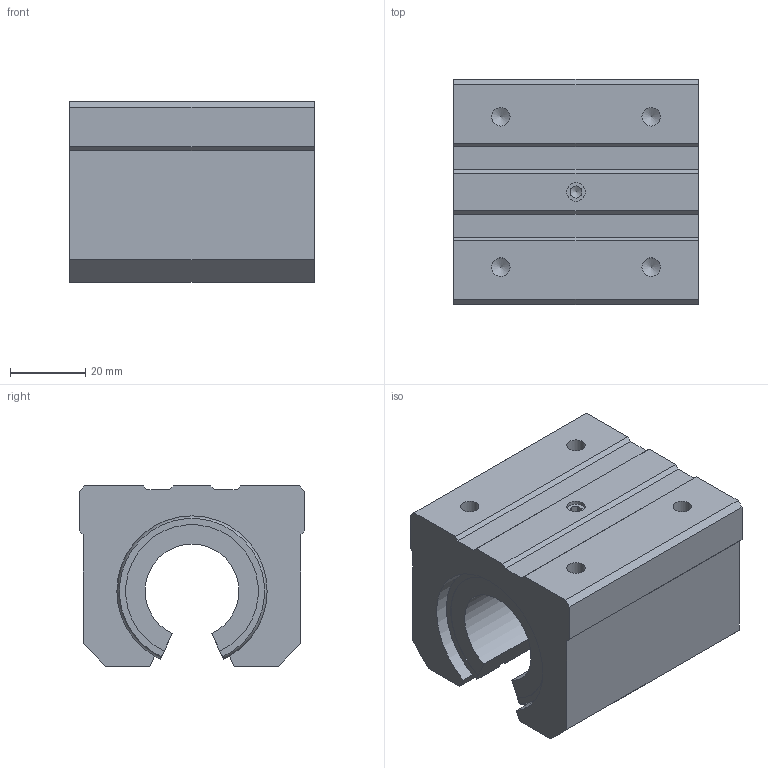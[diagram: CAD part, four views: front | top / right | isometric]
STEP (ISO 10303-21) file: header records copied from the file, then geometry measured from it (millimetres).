
FILE_DESCRIPTION((''),'2;1');
FILE_NAME('D:\製品 (図面)\カタログ用3D\GHA25H.stp','2010-06-07T16:10:37',('Tsuchiya'),(''),'Autodesk Inventor 10','Autodesk Inventor 10','');
FILE_SCHEMA(('AUTOMOTIVE_DESIGN { 1 0 10303 214 1 1 1 1 }'));
Length unit declared in the file: millimetre
Products named in the file (1): GHA25H
Bounding box: 65 x 60 x 48 mm (x, y, z)
Volume: 133553 mm3; surface area: 24855.9 mm2
Topology: 1 solids, 1 shells, 69 faces, 197 edges, 127 vertices
Faces by surface type: plane 41, cylinder 15, bspline 10, torus 2, cone 1
Entity records: 2274 total; most frequent: CARTESIAN_POINT 576, ORIENTED_EDGE 356, DIRECTION 330, EDGE_CURVE 178, VECTOR 126, LINE 126, VERTEX_POINT 118, AXIS2_PLACEMENT_3D 102
